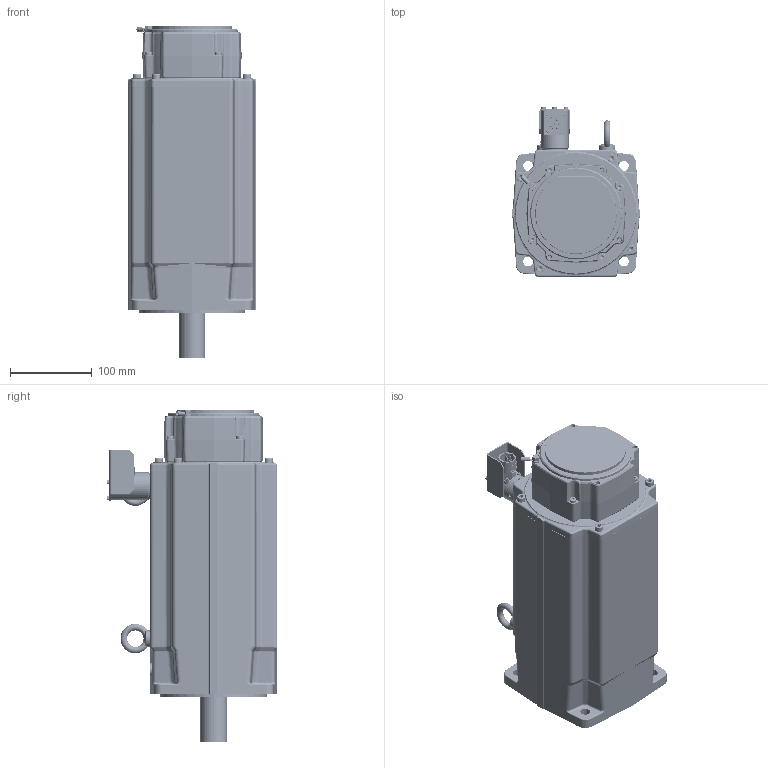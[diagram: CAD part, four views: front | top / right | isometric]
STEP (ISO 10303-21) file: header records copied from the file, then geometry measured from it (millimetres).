
FILE_DESCRIPTION((''),'2;1');
FILE_NAME('EY860EYR7010_ASM','2017-09-29T',('pf73167'),(''),'PRO/ENGINEER BY PARAMETRIC TECHNOLOGY CORPORATION, 2009400','PRO/ENGINEER BY PARAMETRIC TECHNOLOGY CORPORATION, 2009400','');
FILE_SCHEMA(('CONFIG_CONTROL_DESIGN'));
Length unit declared in the file: millimetre
Products named in the file (46): 344441P0017; 5116P1319; 1150P0512; 301026P0003; 344463P0003; 344232P0004; 344212P0003; 344232P0004_ASM; 220087P0301; 344461R0003_ASM; 5116P1327; 1711P0002; 1640P0001; 5340P0036; 344440P0003; 344231P0004; BOB_344465R6000; 344465R6000_ASM; 344466R6000_ASM; SURMOULAGE_344467R6001; 344467R6001_ASM; 5320P0029; 1150P0610; 5340P0071; 344191P0022; 1143P0515; 1190P0001; 6942P0012; 345359P0002; 5340P0124; 5340P0125; 1150P0204; 345359P0001; 1170P0042; 220132P1010_0001; 220132P1010_0002; 220132P0111; 220132P0120; 220132P1010_ASM; 345359P0003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
Assembly tree (103 placements, depth 5):
  EY860EYR7010_ASM
    344441P0017
    5116P1319
    1150P0512  x3
    301026P0003
    344461R0003_ASM
      344463P0003
      344232P0004_ASM
        344232P0004
        344212P0003  x2
      220087P0301  x30
    5116P1327
    1711P0002
    1640P0001  x3
    5340P0036
    344467R6001_ASM
      344440P0003
      344466R6000_ASM
        344465R6000_ASM
          344231P0004
          BOB_344465R6000
      SURMOULAGE_344467R6001
    5320P0029
    1150P0610  x4
    5340P0071
    344191P0022
    1143P0515  x4
    1190P0001  x2
    6942P0012
    345359R1010_800_ASM
      345359P0002
      5340P0124
      5340P0125
      1150P0204  x8
      345359P0001
      1170P0042  x4
      220132P1010_ASM
        220132P1010_0001
        220132P1010_0002
        220132P0111  x4
        220132P0120  x3
      345359P0003
      1150P0305  x3
    1642P0105
    6620P0014
    1145P0508
Bounding box: 157 x 207.7 x 405 mm (x, y, z)
Volume: 5159972.2 mm3; surface area: 1463678.8 mm2
Topology: 102 solids, 131 shells, 5655 faces, 13469 edges, 8183 vertices
Faces by surface type: cylinder 2056, plane 1722, bspline 651, cone 611, torus 553, sphere 52, extrusion 10
Entity records: 145367 total; most frequent: CARTESIAN_POINT 50448, ORIENTED_EDGE 19792, DIRECTION 19544, EDGE_CURVE 9896, AXIS2_PLACEMENT_3D 7538, VERTEX_POINT 6175, EDGE_LOOP 4493, VECTOR 4468
